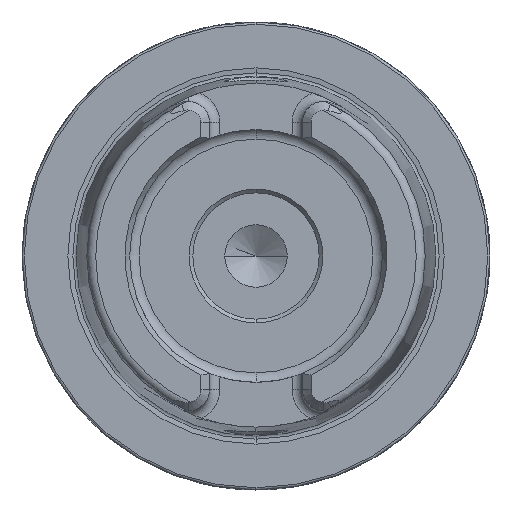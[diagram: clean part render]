
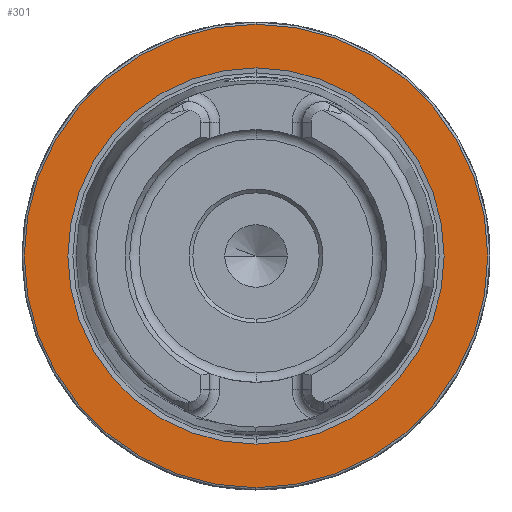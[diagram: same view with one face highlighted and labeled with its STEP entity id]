
A CAD part, left-side view. The second image highlights one B-rep face of the part: STEP entity #301.
In plain terms, the highlighted planar face has unit normal (-1, 0, 0).
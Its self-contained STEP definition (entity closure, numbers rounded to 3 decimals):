
#74 = EDGE_LOOP ( 'NONE', ( #7603, #4416 ) ) ;
#301 = ADVANCED_FACE ( 'NONE', ( #7747, #10655 ), #7753, .F. ) ;
#631 = ORIENTED_EDGE ( 'NONE', *, *, #4259, .T. ) ;
#765 = DIRECTION ( 'NONE',  ( 1., 0., 0. ) ) ;
#1166 = CIRCLE ( 'NONE', #1215, 31.2 ) ;
#1215 = AXIS2_PLACEMENT_3D ( 'NONE', #1618, #10841, #8708 ) ;
#1598 = DIRECTION ( 'NONE',  ( -1., 0., 0. ) ) ;
#1618 = CARTESIAN_POINT ( 'NONE',  ( 0., 0., 0. ) ) ;
#1851 = DIRECTION ( 'NONE',  ( 0., 0., 1. ) ) ;
#1918 = AXIS2_PLACEMENT_3D ( 'NONE', #6528, #765, #11294 ) ;
#3288 = EDGE_CURVE ( 'NONE', #14298, #11245, #8449, .T. ) ;
#3620 = VERTEX_POINT ( 'NONE', #9380 ) ;
#4259 = EDGE_CURVE ( 'NONE', #13293, #3620, #1166, .T. ) ;
#4416 = ORIENTED_EDGE ( 'NONE', *, *, #3288, .F. ) ;
#4685 = AXIS2_PLACEMENT_3D ( 'NONE', #7470, #1598, #5080 ) ;
#4949 = CARTESIAN_POINT ( 'NONE',  ( 0., 0., 0. ) ) ;
#5080 = DIRECTION ( 'NONE',  ( 0., 0., 1. ) ) ;
#5284 = DIRECTION ( 'NONE',  ( -1., 0., 0. ) ) ;
#5570 = EDGE_CURVE ( 'NONE', #11245, #14298, #13271, .T. ) ;
#5608 = ORIENTED_EDGE ( 'NONE', *, *, #8034, .T. ) ;
#5718 = CIRCLE ( 'NONE', #14959, 31.2 ) ;
#5963 = CARTESIAN_POINT ( 'NONE',  ( 0., 0., -25.324 ) ) ;
#6325 = CARTESIAN_POINT ( 'NONE',  ( 0., 0., 25.324 ) ) ;
#6528 = CARTESIAN_POINT ( 'NONE',  ( 0., 31.2, 0. ) ) ;
#7470 = CARTESIAN_POINT ( 'NONE',  ( 0., 0., 0. ) ) ;
#7603 = ORIENTED_EDGE ( 'NONE', *, *, #5570, .F. ) ;
#7747 = FACE_BOUND ( 'NONE', #74, .T. ) ;
#7753 = PLANE ( 'NONE',  #1918 ) ;
#8007 = EDGE_LOOP ( 'NONE', ( #5608, #631 ) ) ;
#8034 = EDGE_CURVE ( 'NONE', #3620, #13293, #5718, .T. ) ;
#8449 = CIRCLE ( 'NONE', #4685, 25.324 ) ;
#8708 = DIRECTION ( 'NONE',  ( 0., 0., 1. ) ) ;
#9380 = CARTESIAN_POINT ( 'NONE',  ( 0., 0., 31.2 ) ) ;
#10655 = FACE_OUTER_BOUND ( 'NONE', #8007, .T. ) ;
#10785 = DIRECTION ( 'NONE',  ( 0., 0., 1. ) ) ;
#10828 = CARTESIAN_POINT ( 'NONE',  ( 0., 0., -31.2 ) ) ;
#10841 = DIRECTION ( 'NONE',  ( -1., 0., 0. ) ) ;
#11245 = VERTEX_POINT ( 'NONE', #6325 ) ;
#11294 = DIRECTION ( 'NONE',  ( 0., 0., -1. ) ) ;
#12293 = CARTESIAN_POINT ( 'NONE',  ( 0., 0., 0. ) ) ;
#12707 = AXIS2_PLACEMENT_3D ( 'NONE', #12293, #5284, #1851 ) ;
#13076 = DIRECTION ( 'NONE',  ( -1., 0., 0. ) ) ;
#13271 = CIRCLE ( 'NONE', #12707, 25.324 ) ;
#13293 = VERTEX_POINT ( 'NONE', #10828 ) ;
#14298 = VERTEX_POINT ( 'NONE', #5963 ) ;
#14959 = AXIS2_PLACEMENT_3D ( 'NONE', #4949, #13076, #10785 ) ;
